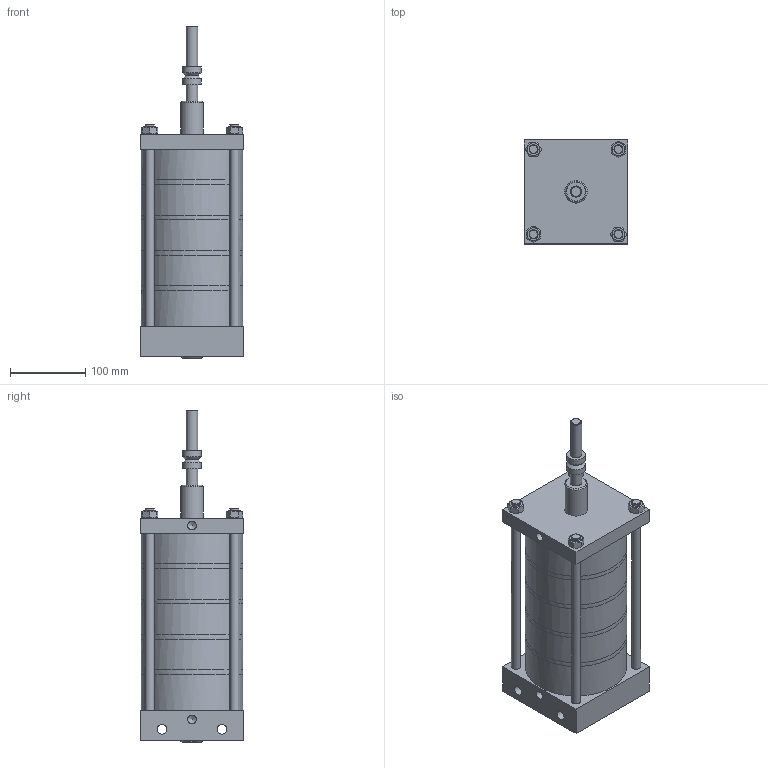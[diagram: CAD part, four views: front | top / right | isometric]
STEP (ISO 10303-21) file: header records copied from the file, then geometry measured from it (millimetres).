
FILE_DESCRIPTION((''),'2;1');
FILE_NAME('D:\VaultWork\Zeichnungen\Maßblätter\Multizylinder\M125\M125-12\M01608-2-0 Maßblatt Multizylinder M125-5-12 mit Schaltstange und Nocken.stp','2011-11-28T12:07:40',('Test'),(''),'Autodesk Inventor 2008','Autodesk Inventor 2008','');
FILE_SCHEMA(('AUTOMOTIVE_DESIGN { 1 0 10303 214 1 1 1 1 }'));
Length unit declared in the file: millimetre
Products named in the file (1): M01608-2-0 Maßblatt Multizylinder M125-5-12 mit Schaltstange und Nocken
Bounding box: 138 x 138 x 442 mm (x, y, z)
Volume: 4653573.8 mm3; surface area: 242483.1 mm2
Topology: 1 solids, 5 shells, 126 faces, 297 edges, 197 vertices
Faces by surface type: plane 60, cylinder 28, cone 24, bspline 13, torus 1
Full cylindrical faces by diameter (mm): 12 x12, 15 x2, 25 x2, 30 x1, 135 x9
Entity records: 3728 total; most frequent: CARTESIAN_POINT 1181, DIRECTION 472, ORIENTED_EDGE 410, EDGE_LOOP 226, AXIS2_PLACEMENT_3D 211, EDGE_CURVE 205, VERTEX_POINT 169, STYLED_ITEM 127
